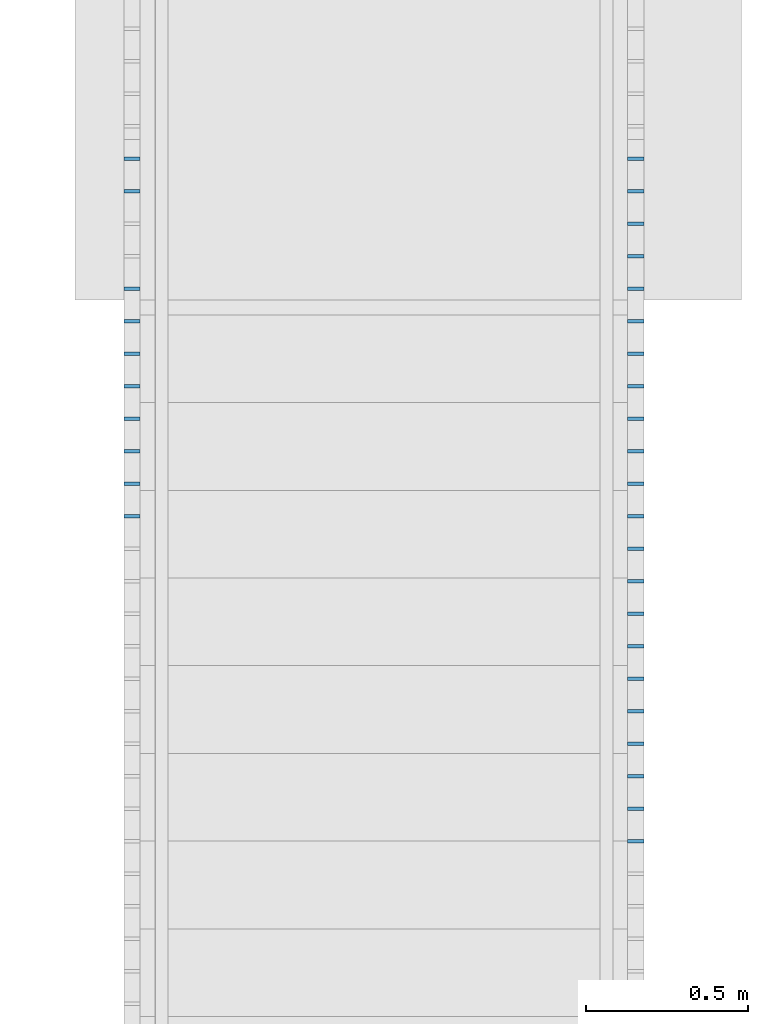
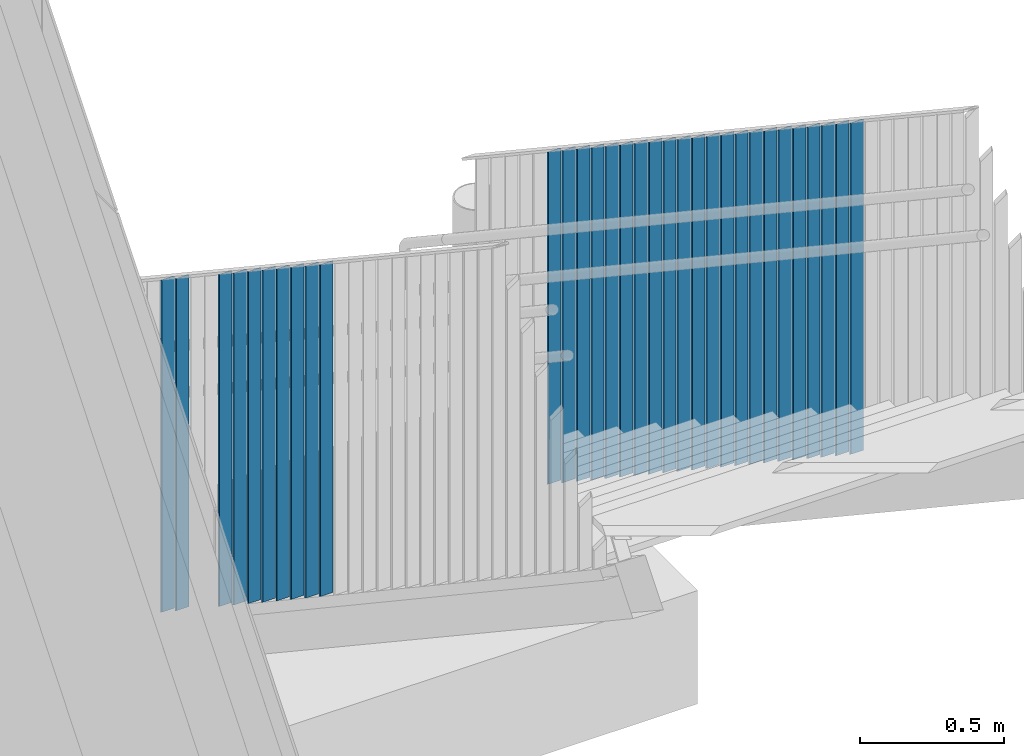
# One storey, part 80 of 418: 32 members, 2 elements without a shape of their own.
"""IFC2X3 building model written with IfcOpenShell, lengths in millimetres."""

from ifc_helpers import new_model, entity, si_unit, converted_unit, derived_unit, money_unit, direction, frame, origin_with_axes, place, context, subcontext, project, spatial, faceted_brep, material, type_object, element, aggregate, save


model = new_model("IFC2X3")

# Units and contexts
model_context = context("Model", 3, precision=0.01, world=origin_with_axes(), true_north=direction((0.0, 1.0)))
body_context = subcontext(model_context, "Body", "Model", "MODEL_VIEW")
ifc_project = project(units=[si_unit("LENGTHUNIT", "METRE", prefix="MILLI"), si_unit("AREAUNIT", "SQUARE_METRE"), si_unit("VOLUMEUNIT", "CUBIC_METRE"), converted_unit("PLANEANGLEUNIT", "DEGREE", entity("IfcPlaneAngleMeasure", 0.0174532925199), si_unit("PLANEANGLEUNIT", "RADIAN"), dimensions=[0, 0, 0, 0, 0, 0, 0]), si_unit("SOLIDANGLEUNIT", "STERADIAN"), money_unit("EUR"), converted_unit("TIMEUNIT", "Year", entity("IfcTimeMeasure", 31556926.0), si_unit("TIMEUNIT", "SECOND"), dimensions=[0, 0, 1, 0, 0, 0, 0]), si_unit("MASSUNIT", "GRAM", prefix="KILO"), si_unit("THERMODYNAMICTEMPERATUREUNIT", "DEGREE_CELSIUS"), si_unit("LUMINOUSINTENSITYUNIT", "LUMEN"), si_unit("ENERGYUNIT", "JOULE", prefix="MEGA"), derived_unit("THERMALCONDUCTANCEUNIT", [(si_unit("POWERUNIT", "WATT"), 1), (si_unit("LENGTHUNIT", "METRE"), -1), (si_unit("THERMODYNAMICTEMPERATUREUNIT", "KELVIN"), -1)]), derived_unit("SPECIFICHEATCAPACITYUNIT", [(si_unit("ENERGYUNIT", "JOULE"), 1), (si_unit("MASSUNIT", "GRAM", prefix="KILO"), -1), (si_unit("THERMODYNAMICTEMPERATUREUNIT", "KELVIN"), -1)]), derived_unit("MASSDENSITYUNIT", [(si_unit("MASSUNIT", "GRAM", prefix="KILO"), 1), (si_unit("VOLUMEUNIT", "CUBIC_METRE"), -1)])], contexts=[model_context])

# Site, building, storey
site_placement = place(None, origin_with_axes())
site = spatial("IfcSite", under=ifc_project, at=site_placement, Name="Paldiski mnt 245/1, Tallinn, Harjumaa", CompositionType="COMPLEX")
building_placement = place(site_placement, origin_with_axes())
building = spatial("IfcBuilding", under=site, at=building_placement, Name="RKAS Hoone üldnimetus (kasutust iseloomustav) -> IFC Project Manager -> SOLIBRI", CompositionType="ELEMENT")
storey_placement = place(building_placement, origin_with_axes())
storey = spatial("IfcBuildingStorey", under=building, at=storey_placement, Name="Esimene korrus", CompositionType="ELEMENT", Elevation=0.0)

# Railing, members
railing_type = type_object("IfcRailingType", Name="Railing Type", PredefinedType="NOTDEFINED")
railing_1_placement = place(storey_placement, frame((-15438.0000282, 781.88210964, -670.434782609), z_axis=(0.0, 0.0, 1.0), x_axis=(-0.773149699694, -0.634223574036, 0.0)))
railing_1 = element("IfcRailing", 1, at=railing_1_placement, inside=storey, type_object=railing_type, Name="Trepipiire", PredefinedType="NOTDEFINED")
ifc_material = material(Name="RAL7016")
member_type = type_object("IfcMemberType", Name="IfcMember", PredefinedType="POST")
member_1_placement = place(railing_1_placement, frame((-285.098573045, -386.967445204, 99.0338164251), z_axis=(0.0, 0.0, 1.0), x_axis=(-0.773149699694, 0.634223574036, 0.0)))
member_1 = element("IfcMember", 2, at=member_1_placement, type_object=member_type, material=ifc_material, Name="Balustraad - 001", ObjectType="POST", context=body_context, shape_type="Brep", body=[
    faceted_brep([(25.0, -5.0, 84.7342992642), (25.0, 5.0, 78.0676325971), (25.0, 5.0, 1486.6747182), (25.0, -5.0, 1493.3252818), (-24.9999848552, 5.0, 78.0676325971), (-24.9999848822, -5.0, 84.7342992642), (-25.0, 5.0, 1486.6747182), (-25.0, -5.0, 1493.3252818)], [[[0, 1, 2, 3]], [[4, 1, 0, 5]], [[1, 4, 6, 2]], [[6, 7, 3, 2]], [[5, 0, 3, 7]], [[4, 5, 7, 6]]]),
])
member_2_placement = place(railing_1_placement, frame((-221.676215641, -309.652475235, 165.539452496), z_axis=(0.0, 0.0, 1.0), x_axis=(-0.773149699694, 0.634223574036, 0.0)))
member_2 = element("IfcMember", 3, at=member_2_placement, type_object=member_type, material=ifc_material, Name="Balustraad - 001", ObjectType="POST", context=body_context, shape_type="Brep", body=[
    faceted_brep([(25.0, -5.0, 84.8953298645), (25.0, 5.0, 78.2286631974), (25.0, 5.0, 1486.6747182), (25.0, -5.0, 1493.3252818), (-24.9999851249, 5.0, 78.2286631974), (-24.9999851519, -5.0, 84.8953298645), (-25.0, 5.0, 1486.6747182), (-25.0, -5.0, 1493.3252818)], [[[0, 1, 2, 3]], [[4, 1, 0, 5]], [[1, 4, 6, 2]], [[6, 7, 3, 2]], [[5, 0, 3, 7]], [[4, 5, 7, 6]]]),
])
member_3_placement = place(railing_1_placement, frame((-31.4091434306, -77.7075653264, 365.056360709), z_axis=(0.0, 0.0, 1.0), x_axis=(-0.773149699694, 0.634223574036, 0.0)))
member_3 = element("IfcMember", 4, at=member_3_placement, type_object=member_type, material=ifc_material, Name="Balustraad - 001", ObjectType="POST", context=body_context, shape_type="Brep", body=[
    faceted_brep([(25.0, -5.0, 85.3784216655), (25.0, 5.0, 78.7117549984), (25.0, 5.0, 1486.6747182), (25.0, -5.0, 1493.3252818), (-24.9999859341, 5.0, 78.7117549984), (-24.999985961, -5.0, 85.3784216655), (-25.0, 5.0, 1486.6747182), (-25.0, -5.0, 1493.3252818)], [[[0, 1, 2, 3]], [[4, 1, 0, 5]], [[1, 4, 6, 2]], [[6, 7, 3, 2]], [[5, 0, 3, 7]], [[4, 5, 7, 6]]]),
])
member_4_placement = place(railing_1_placement, frame((32.0132139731, -0.392595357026, 431.561996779), z_axis=(0.0, 0.0, 1.0), x_axis=(-0.773149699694, 0.634223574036, 0.0)))
member_4 = element("IfcMember", 5, at=member_4_placement, type_object=member_type, material=ifc_material, Name="Balustraad - 001", ObjectType="POST", context=body_context, shape_type="Brep", body=[
    faceted_brep([(25.0, -5.0, 85.5394522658), (25.0, 5.0, 78.8727855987), (25.0, 5.0, 1486.6747182), (25.0, -5.0, 1493.3252818), (-24.9999862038, 5.0, 78.8727855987), (-24.9999862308, -5.0, 85.5394522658), (-25.0, 5.0, 1486.6747182), (-25.0, -5.0, 1493.3252818)], [[[0, 1, 2, 3]], [[4, 1, 0, 5]], [[1, 4, 6, 2]], [[6, 7, 3, 2]], [[5, 0, 3, 7]], [[4, 5, 7, 6]]]),
])
member_5_placement = place(railing_1_placement, frame((95.4355713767, 76.9223746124, 498.06763285), z_axis=(0.0, 0.0, 1.0), x_axis=(-0.773149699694, 0.634223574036, 0.0)))
member_5 = element("IfcMember", 6, at=member_5_placement, type_object=member_type, material=ifc_material, Name="Piirde Post - 001", ObjectType="POST", context=body_context, shape_type="Brep", body=[
    faceted_brep([(25.0, -5.0, 85.7004828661), (25.0, 5.0, 79.033816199), (25.0, 5.0, 1486.6747182), (25.0, -5.0, 1493.3252818), (-24.9999864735, 5.0, 79.033816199), (-24.9999865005, -5.0, 85.7004828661), (-25.0, 5.0, 1486.6747182), (-25.0, -5.0, 1493.3252818)], [[[0, 1, 2, 3]], [[4, 1, 0, 5]], [[1, 4, 6, 2]], [[6, 7, 3, 2]], [[5, 0, 3, 7]], [[4, 5, 7, 6]]]),
])
member_6_placement = place(railing_1_placement, frame((158.85792878, 154.237344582, 564.573268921), z_axis=(0.0, 0.0, 1.0), x_axis=(-0.773149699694, 0.634223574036, 0.0)))
member_6 = element("IfcMember", 7, at=member_6_placement, type_object=member_type, material=ifc_material, Name="Balustraad - 001", ObjectType="POST", context=body_context, shape_type="Brep", body=[
    faceted_brep([(25.0, -5.0, 85.8615134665), (25.0, 5.0, 79.1948467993), (25.0, 5.0, 1486.6747182), (25.0, -5.0, 1493.3252818), (-24.9999867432, 5.0, 79.1948467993), (-24.9999867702, -5.0, 85.8615134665), (-25.0, 5.0, 1486.6747182), (-25.0, -5.0, 1493.3252818)], [[[0, 1, 2, 3]], [[4, 1, 0, 5]], [[1, 4, 6, 2]], [[6, 7, 3, 2]], [[5, 0, 3, 7]], [[4, 5, 7, 6]]]),
])
member_7_placement = place(railing_1_placement, frame((222.280286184, 231.552314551, 631.078904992), z_axis=(0.0, 0.0, 1.0), x_axis=(-0.773149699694, 0.634223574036, 0.0)))
member_7 = element("IfcMember", 8, at=member_7_placement, type_object=member_type, material=ifc_material, Name="Balustraad - 001", ObjectType="POST", context=body_context, shape_type="Brep", body=[
    faceted_brep([(25.0, -5.0, 86.0225440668), (25.0, 5.0, 79.3558773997), (25.0, 5.0, 1486.6747182), (25.0, -5.0, 1493.3252818), (-24.999987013, 5.0, 79.3558773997), (-24.9999870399, -5.0, 86.0225440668), (-25.0, 5.0, 1486.6747182), (-25.0, -5.0, 1493.3252818)], [[[0, 1, 2, 3]], [[4, 1, 0, 5]], [[1, 4, 6, 2]], [[6, 7, 3, 2]], [[5, 0, 3, 7]], [[4, 5, 7, 6]]]),
])
member_8_placement = place(railing_1_placement, frame((285.702643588, 308.86728452, 697.584541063), z_axis=(0.0, 0.0, 1.0), x_axis=(-0.773149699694, 0.634223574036, 0.0)))
member_8 = element("IfcMember", 9, at=member_8_placement, type_object=member_type, material=ifc_material, Name="Balustraad - 001", ObjectType="POST", context=body_context, shape_type="Brep", body=[
    faceted_brep([(25.0, -5.0, 86.1835746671), (25.0, 5.0, 79.516908), (25.0, 5.0, 1486.6747182), (25.0, -5.0, 1493.3252818), (-24.9999872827, 5.0, 79.516908), (-24.9999873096, -5.0, 86.1835746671), (-25.0, 5.0, 1486.6747182), (-25.0, -5.0, 1493.3252818)], [[[0, 1, 2, 3]], [[4, 1, 0, 5]], [[1, 4, 6, 2]], [[6, 7, 3, 2]], [[5, 0, 3, 7]], [[4, 5, 7, 6]]]),
])
member_9_placement = place(railing_1_placement, frame((349.125000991, 386.18225449, 764.090177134), z_axis=(0.0, 0.0, 1.0), x_axis=(-0.773149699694, 0.634223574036, 0.0)))
member_9 = element("IfcMember", 10, at=member_9_placement, type_object=member_type, material=ifc_material, Name="Balustraad - 001", ObjectType="POST", context=body_context, shape_type="Brep", body=[
    faceted_brep([(25.0, -5.0, 86.3446052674), (25.0, 5.0, 79.6779386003), (25.0, 5.0, 1486.6747182), (25.0, -5.0, 1493.3252818), (-24.9999875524, 5.0, 79.6779386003), (-24.9999875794, -5.0, 86.3446052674), (-25.0, 5.0, 1486.6747182), (-25.0, -5.0, 1493.3252818)], [[[0, 1, 2, 3]], [[4, 1, 0, 5]], [[1, 4, 6, 2]], [[6, 7, 3, 2]], [[5, 0, 3, 7]], [[4, 5, 7, 6]]]),
])
member_10_placement = place(railing_1_placement, frame((412.547358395, 463.497224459, 830.595813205), z_axis=(0.0, 0.0, 1.0), x_axis=(-0.773149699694, 0.634223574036, 0.0)))
member_10 = element("IfcMember", 11, at=member_10_placement, type_object=member_type, material=ifc_material, Name="Balustraad - 001", ObjectType="POST", context=body_context, shape_type="Brep", body=[
    faceted_brep([(25.0, -5.0, 86.5056358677), (25.0, 5.0, 79.8389692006), (25.0, 5.0, 1486.6747182), (25.0, -5.0, 1493.3252818), (-24.9999878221, 5.0, 79.8389692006), (-24.9999878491, -5.0, 86.5056358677), (-25.0, 5.0, 1486.6747182), (-25.0, -5.0, 1493.3252818)], [[[0, 1, 2, 3]], [[4, 1, 0, 5]], [[1, 4, 6, 2]], [[6, 7, 3, 2]], [[5, 0, 3, 7]], [[4, 5, 7, 6]]]),
])
aggregate(railing_1, [member_1, member_2, member_3, member_4, member_5, member_6, member_7, member_8, member_9, member_10])

railing_2_placement = place(storey_placement, frame((-13938.0000282, 1623.82640275, -670.434782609), z_axis=(0.0, 0.0, 1.0), x_axis=(0.773149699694, 0.634223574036, 0.0)))
railing_2 = element("IfcRailing", 12, at=railing_2_placement, inside=storey, type_object=railing_type, Name="Trepipiire", PredefinedType="NOTDEFINED")
member_11_placement = place(railing_2_placement, frame((-210.224860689, -295.692710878, 99.0338164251), z_axis=(0.0, 0.0, 1.0), x_axis=(0.773149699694, -0.634223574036, 0.0)))
member_11 = element("IfcMember", 13, at=member_11_placement, type_object=member_type, material=ifc_material, Name="Balustraad - 001", ObjectType="POST", context=body_context, shape_type="Brep", body=[
    faceted_brep([(24.9999986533, -5.0, 84.7342992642), (24.9999986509, 5.0, 78.0676325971), (25.0, 5.0, 1486.6747182), (25.0, -5.0, 1493.3252818), (-25.0, 5.0, 78.0676325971), (-25.0, -5.0, 84.7342992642), (-25.0, 5.0, 1486.6747182), (-25.0, -5.0, 1493.3252818)], [[[0, 1, 2, 3]], [[4, 1, 0, 5]], [[1, 4, 6, 2]], [[6, 7, 3, 2]], [[5, 0, 3, 7]], [[4, 5, 7, 6]]]),
])
member_12_placement = place(railing_2_placement, frame((-273.647218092, -373.007680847, 165.539452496), z_axis=(0.0, 0.0, 1.0), x_axis=(0.773149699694, -0.634223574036, 0.0)))
member_12 = element("IfcMember", 14, at=member_12_placement, type_object=member_type, material=ifc_material, Name="Balustraad - 001", ObjectType="POST", context=body_context, shape_type="Brep", body=[
    faceted_brep([(24.9999986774, -5.0, 84.8953298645), (24.999998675, 5.0, 78.2286631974), (25.0, 5.0, 1486.6747182), (25.0, -5.0, 1493.3252818), (-25.0, 5.0, 78.2286631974), (-25.0, -5.0, 84.8953298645), (-25.0, 5.0, 1486.6747182), (-25.0, -5.0, 1493.3252818)], [[[0, 1, 2, 3]], [[4, 1, 0, 5]], [[1, 4, 6, 2]], [[6, 7, 3, 2]], [[5, 0, 3, 7]], [[4, 5, 7, 6]]]),
])
member_13_placement = place(railing_2_placement, frame((-337.069575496, -450.322650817, 232.045088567), z_axis=(0.0, 0.0, 1.0), x_axis=(0.773149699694, -0.634223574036, 0.0)))
member_13 = element("IfcMember", 15, at=member_13_placement, type_object=member_type, material=ifc_material, Name="Balustraad - 001", ObjectType="POST", context=body_context, shape_type="Brep", body=[
    faceted_brep([(24.9999987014, -5.0, 85.0563604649), (24.999998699, 5.0, 78.3896937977), (25.0, 5.0, 1486.6747182), (25.0, -5.0, 1493.3252818), (-25.0, 5.0, 78.3896937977), (-25.0, -5.0, 85.0563604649), (-25.0, 5.0, 1486.6747182), (-25.0, -5.0, 1493.3252818)], [[[0, 1, 2, 3]], [[4, 1, 0, 5]], [[1, 4, 6, 2]], [[6, 7, 3, 2]], [[5, 0, 3, 7]], [[4, 5, 7, 6]]]),
])
member_14_placement = place(railing_2_placement, frame((-400.4919329, -527.637620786, 298.550724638), z_axis=(0.0, 0.0, 1.0), x_axis=(0.773149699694, -0.634223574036, 0.0)))
member_14 = element("IfcMember", 16, at=member_14_placement, type_object=member_type, material=ifc_material, Name="Balustraad - 001", ObjectType="POST", context=body_context, shape_type="Brep", body=[
    faceted_brep([(24.9999987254, -5.0, 85.2173910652), (24.999998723, 5.0, 78.5507243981), (25.0, 5.0, 1486.6747182), (25.0, -5.0, 1493.3252818), (-25.0, 5.0, 78.5507243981), (-25.0, -5.0, 85.2173910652), (-25.0, 5.0, 1486.6747182), (-25.0, -5.0, 1493.3252818)], [[[0, 1, 2, 3]], [[4, 1, 0, 5]], [[1, 4, 6, 2]], [[6, 7, 3, 2]], [[5, 0, 3, 7]], [[4, 5, 7, 6]]]),
])
member_15_placement = place(railing_2_placement, frame((-463.914290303, -604.952590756, 365.056360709), z_axis=(0.0, 0.0, 1.0), x_axis=(0.773149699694, -0.634223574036, 0.0)))
member_15 = element("IfcMember", 17, at=member_15_placement, type_object=member_type, material=ifc_material, Name="Balustraad - 001", ObjectType="POST", context=body_context, shape_type="Brep", body=[
    faceted_brep([(24.9999987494, -5.0, 85.3784216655), (24.999998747, 5.0, 78.7117549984), (25.0, 5.0, 1486.6747182), (25.0, -5.0, 1493.3252818), (-25.0, 5.0, 78.7117549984), (-25.0, -5.0, 85.3784216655), (-25.0, 5.0, 1486.6747182), (-25.0, -5.0, 1493.3252818)], [[[0, 1, 2, 3]], [[4, 1, 0, 5]], [[1, 4, 6, 2]], [[6, 7, 3, 2]], [[5, 0, 3, 7]], [[4, 5, 7, 6]]]),
])
member_16_placement = place(railing_2_placement, frame((-527.336647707, -682.267560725, 431.561996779), z_axis=(0.0, 0.0, 1.0), x_axis=(0.773149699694, -0.634223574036, 0.0)))
member_16 = element("IfcMember", 18, at=member_16_placement, type_object=member_type, material=ifc_material, Name="Balustraad - 001", ObjectType="POST", context=body_context, shape_type="Brep", body=[
    faceted_brep([(24.9999987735, -5.0, 85.5394522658), (24.9999987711, 5.0, 78.8727855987), (25.0, 5.0, 1486.6747182), (25.0, -5.0, 1493.3252818), (-25.0, 5.0, 78.8727855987), (-25.0, -5.0, 85.5394522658), (-25.0, 5.0, 1486.6747182), (-25.0, -5.0, 1493.3252818)], [[[0, 1, 2, 3]], [[4, 1, 0, 5]], [[1, 4, 6, 2]], [[6, 7, 3, 2]], [[5, 0, 3, 7]], [[4, 5, 7, 6]]]),
])
member_17_placement = place(railing_2_placement, frame((-590.75900511, -759.582530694, 498.06763285), z_axis=(0.0, 0.0, 1.0), x_axis=(0.773149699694, -0.634223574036, 0.0)))
member_17 = element("IfcMember", 19, at=member_17_placement, type_object=member_type, material=ifc_material, Name="Piirde Post - 001", ObjectType="POST", context=body_context, shape_type="Brep", body=[
    faceted_brep([(24.9999987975, -5.0, 85.7004828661), (24.9999987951, 5.0, 79.033816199), (25.0, 5.0, 1486.6747182), (25.0, -5.0, 1493.3252818), (-25.0, 5.0, 79.033816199), (-25.0, -5.0, 85.7004828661), (-25.0, 5.0, 1486.6747182), (-25.0, -5.0, 1493.3252818)], [[[0, 1, 2, 3]], [[4, 1, 0, 5]], [[1, 4, 6, 2]], [[6, 7, 3, 2]], [[5, 0, 3, 7]], [[4, 5, 7, 6]]]),
])
member_18_placement = place(railing_2_placement, frame((-654.181362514, -836.897500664, 564.573268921), z_axis=(0.0, 0.0, 1.0), x_axis=(0.773149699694, -0.634223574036, 0.0)))
member_18 = element("IfcMember", 20, at=member_18_placement, type_object=member_type, material=ifc_material, Name="Balustraad - 001", ObjectType="POST", context=body_context, shape_type="Brep", body=[
    faceted_brep([(24.9999988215, -5.0, 85.8615134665), (24.9999988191, 5.0, 79.1948467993), (25.0, 5.0, 1486.6747182), (25.0, -5.0, 1493.3252818), (-25.0, 5.0, 79.1948467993), (-25.0, -5.0, 85.8615134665), (-25.0, 5.0, 1486.6747182), (-25.0, -5.0, 1493.3252818)], [[[0, 1, 2, 3]], [[4, 1, 0, 5]], [[1, 4, 6, 2]], [[6, 7, 3, 2]], [[5, 0, 3, 7]], [[4, 5, 7, 6]]]),
])
member_19_placement = place(railing_2_placement, frame((-717.603719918, -914.212470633, 631.078904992), z_axis=(0.0, 0.0, 1.0), x_axis=(0.773149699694, -0.634223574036, 0.0)))
member_19 = element("IfcMember", 21, at=member_19_placement, type_object=member_type, material=ifc_material, Name="Balustraad - 001", ObjectType="POST", context=body_context, shape_type="Brep", body=[
    faceted_brep([(24.9999988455, -5.0, 86.0225440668), (24.9999988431, 5.0, 79.3558773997), (25.0, 5.0, 1486.6747182), (25.0, -5.0, 1493.3252818), (-25.0, 5.0, 79.3558773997), (-25.0, -5.0, 86.0225440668), (-25.0, 5.0, 1486.6747182), (-25.0, -5.0, 1493.3252818)], [[[0, 1, 2, 3]], [[4, 1, 0, 5]], [[1, 4, 6, 2]], [[6, 7, 3, 2]], [[5, 0, 3, 7]], [[4, 5, 7, 6]]]),
])
member_20_placement = place(railing_2_placement, frame((-781.026077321, -991.527440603, 697.584541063), z_axis=(0.0, 0.0, 1.0), x_axis=(0.773149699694, -0.634223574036, 0.0)))
member_20 = element("IfcMember", 22, at=member_20_placement, type_object=member_type, material=ifc_material, Name="Balustraad - 001", ObjectType="POST", context=body_context, shape_type="Brep", body=[
    faceted_brep([(24.9999988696, -5.0, 86.1835746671), (24.9999988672, 5.0, 79.516908), (25.0, 5.0, 1486.6747182), (25.0, -5.0, 1493.3252818), (-25.0, 5.0, 79.516908), (-25.0, -5.0, 86.1835746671), (-25.0, 5.0, 1486.6747182), (-25.0, -5.0, 1493.3252818)], [[[0, 1, 2, 3]], [[4, 1, 0, 5]], [[1, 4, 6, 2]], [[6, 7, 3, 2]], [[5, 0, 3, 7]], [[4, 5, 7, 6]]]),
])
member_21_placement = place(railing_2_placement, frame((-844.448434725, -1068.84241057, 764.090177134), z_axis=(0.0, 0.0, 1.0), x_axis=(0.773149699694, -0.634223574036, 0.0)))
member_21 = element("IfcMember", 23, at=member_21_placement, type_object=member_type, material=ifc_material, Name="Balustraad - 001", ObjectType="POST", context=body_context, shape_type="Brep", body=[
    faceted_brep([(24.9999988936, -5.0, 86.3446052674), (24.9999988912, 5.0, 79.6779386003), (25.0, 5.0, 1486.6747182), (25.0, -5.0, 1493.3252818), (-25.0, 5.0, 79.6779386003), (-25.0, -5.0, 86.3446052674), (-25.0, 5.0, 1486.6747182), (-25.0, -5.0, 1493.3252818)], [[[0, 1, 2, 3]], [[4, 1, 0, 5]], [[1, 4, 6, 2]], [[6, 7, 3, 2]], [[5, 0, 3, 7]], [[4, 5, 7, 6]]]),
])
member_22_placement = place(railing_2_placement, frame((-907.870792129, -1146.15738054, 830.595813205), z_axis=(0.0, 0.0, 1.0), x_axis=(0.773149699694, -0.634223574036, 0.0)))
member_22 = element("IfcMember", 24, at=member_22_placement, type_object=member_type, material=ifc_material, Name="Balustraad - 001", ObjectType="POST", context=body_context, shape_type="Brep", body=[
    faceted_brep([(24.9999989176, -5.0, 86.5056358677), (24.9999989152, 5.0, 79.8389692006), (25.0, 5.0, 1486.6747182), (25.0, -5.0, 1493.3252818), (-25.0, 5.0, 79.8389692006), (-25.0, -5.0, 86.5056358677), (-25.0, 5.0, 1486.6747182), (-25.0, -5.0, 1493.3252818)], [[[0, 1, 2, 3]], [[4, 1, 0, 5]], [[1, 4, 6, 2]], [[6, 7, 3, 2]], [[5, 0, 3, 7]], [[4, 5, 7, 6]]]),
])
member_23_placement = place(railing_2_placement, frame((-971.293149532, -1223.47235051, 897.101449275), z_axis=(0.0, 0.0, 1.0), x_axis=(0.773149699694, -0.634223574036, 0.0)))
member_23 = element("IfcMember", 25, at=member_23_placement, type_object=member_type, material=ifc_material, Name="Balustraad - 001", ObjectType="POST", context=body_context, shape_type="Brep", body=[
    faceted_brep([(24.9999989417, -5.0, 86.6666664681), (24.9999989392, 5.0, 79.999999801), (25.0, 5.0, 1486.6747182), (25.0, -5.0, 1493.3252818), (-25.0, 5.0, 79.9999998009), (-25.0, -5.0, 86.6666664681), (-25.0, 5.0, 1486.6747182), (-25.0, -5.0, 1493.3252818)], [[[0, 1, 2, 3]], [[4, 1, 0, 5]], [[1, 4, 6, 2]], [[6, 7, 3, 2]], [[5, 0, 3, 7]], [[4, 5, 7, 6]]]),
])
member_24_placement = place(railing_2_placement, frame((-1034.71550694, -1300.78732048, 963.607085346), z_axis=(0.0, 0.0, 1.0), x_axis=(0.773149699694, -0.634223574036, 0.0)))
member_24 = element("IfcMember", 26, at=member_24_placement, type_object=member_type, material=ifc_material, Name="Balustraad - 001", ObjectType="POST", context=body_context, shape_type="Brep", body=[
    faceted_brep([(24.9999989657, -5.0, 86.8276970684), (24.9999989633, 5.0, 80.1610304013), (25.0, 5.0, 1486.6747182), (25.0, -5.0, 1493.3252818), (-25.0, 5.0, 80.1610304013), (-25.0, -5.0, 86.8276970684), (-25.0, 5.0, 1486.6747182), (-25.0, -5.0, 1493.3252818)], [[[0, 1, 2, 3]], [[4, 1, 0, 5]], [[1, 4, 6, 2]], [[6, 7, 3, 2]], [[5, 0, 3, 7]], [[4, 5, 7, 6]]]),
])
member_25_placement = place(railing_2_placement, frame((-1098.13786434, -1378.10229045, 1030.11272142), z_axis=(0.0, 0.0, 1.0), x_axis=(0.773149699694, -0.634223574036, 0.0)))
member_25 = element("IfcMember", 27, at=member_25_placement, type_object=member_type, material=ifc_material, Name="Balustraad - 001", ObjectType="POST", context=body_context, shape_type="Brep", body=[
    faceted_brep([(24.9999989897, -5.0, 86.9887276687), (24.9999989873, 5.0, 80.3220610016), (25.0, 5.0, 1486.6747182), (25.0, -5.0, 1493.3252818), (-25.0, 5.0, 80.3220610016), (-25.0, -5.0, 86.9887276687), (-25.0, 5.0, 1486.6747182), (-25.0, -5.0, 1493.3252818)], [[[0, 1, 2, 3]], [[4, 1, 0, 5]], [[1, 4, 6, 2]], [[6, 7, 3, 2]], [[5, 0, 3, 7]], [[4, 5, 7, 6]]]),
])
member_26_placement = place(railing_2_placement, frame((-1161.56022174, -1455.41726042, 1096.61835749), z_axis=(0.0, 0.0, 1.0), x_axis=(0.773149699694, -0.634223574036, 0.0)))
member_26 = element("IfcMember", 28, at=member_26_placement, type_object=member_type, material=ifc_material, Name="Balustraad - 001", ObjectType="POST", context=body_context, shape_type="Brep", body=[
    faceted_brep([(24.9999990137, -5.0, 87.149758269), (24.9999990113, 5.0, 80.4830916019), (25.0, 5.0, 1486.6747182), (25.0, -5.0, 1493.3252818), (-25.0, 5.0, 80.4830916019), (-25.0, -5.0, 87.149758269), (-25.0, 5.0, 1486.6747182), (-25.0, -5.0, 1493.3252818)], [[[0, 1, 2, 3]], [[4, 1, 0, 5]], [[1, 4, 6, 2]], [[6, 7, 3, 2]], [[5, 0, 3, 7]], [[4, 5, 7, 6]]]),
])
member_27_placement = place(railing_2_placement, frame((-1224.98257915, -1532.73223039, 1163.12399356), z_axis=(0.0, 0.0, 1.0), x_axis=(0.773149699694, -0.634223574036, 0.0)))
member_27 = element("IfcMember", 29, at=member_27_placement, type_object=member_type, material=ifc_material, Name="Balustraad - 001", ObjectType="POST", context=body_context, shape_type="Brep", body=[
    faceted_brep([(24.9999990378, -5.0, 87.3107888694), (24.9999990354, 5.0, 80.6441222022), (25.0, 5.0, 1486.6747182), (25.0, -5.0, 1493.3252818), (-25.0, 5.0, 80.6441222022), (-25.0, -5.0, 87.3107888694), (-25.0, 5.0, 1486.6747182), (-25.0, -5.0, 1493.3252818)], [[[0, 1, 2, 3]], [[4, 1, 0, 5]], [[1, 4, 6, 2]], [[6, 7, 3, 2]], [[5, 0, 3, 7]], [[4, 5, 7, 6]]]),
])
member_28_placement = place(railing_2_placement, frame((-1288.40493655, -1610.04720036, 1229.62962963), z_axis=(0.0, 0.0, 1.0), x_axis=(0.773149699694, -0.634223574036, 0.0)))
member_28 = element("IfcMember", 30, at=member_28_placement, type_object=member_type, material=ifc_material, Name="Balustraad - 001", ObjectType="POST", context=body_context, shape_type="Brep", body=[
    faceted_brep([(24.9999990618, -5.0, 87.4718194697), (24.9999990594, 5.0, 80.8051528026), (25.0, 5.0, 1486.6747182), (25.0, -5.0, 1493.3252818), (-25.0, 5.0, 80.8051528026), (-25.0, -5.0, 87.4718194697), (-25.0, 5.0, 1486.6747182), (-25.0, -5.0, 1493.3252818)], [[[0, 1, 2, 3]], [[4, 1, 0, 5]], [[1, 4, 6, 2]], [[6, 7, 3, 2]], [[5, 0, 3, 7]], [[4, 5, 7, 6]]]),
])
member_29_placement = place(railing_2_placement, frame((-1351.82729395, -1687.36217033, 1296.1352657), z_axis=(0.0, 0.0, 1.0), x_axis=(0.773149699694, -0.634223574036, 0.0)))
member_29 = element("IfcMember", 31, at=member_29_placement, type_object=member_type, material=ifc_material, Name="Piirde Post - 001", ObjectType="POST", context=body_context, shape_type="Brep", body=[
    faceted_brep([(24.9999990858, -5.0, 87.63285007), (24.9999990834, 5.0, 80.9661834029), (25.0, 5.0, 1486.6747182), (25.0, -5.0, 1493.3252818), (-25.0, 5.0, 80.9661834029), (-25.0, -5.0, 87.63285007), (-25.0, 5.0, 1486.6747182), (-25.0, -5.0, 1493.3252818)], [[[0, 1, 2, 3]], [[4, 1, 0, 5]], [[1, 4, 6, 2]], [[6, 7, 3, 2]], [[5, 0, 3, 7]], [[4, 5, 7, 6]]]),
])
member_30_placement = place(railing_2_placement, frame((-1415.24965136, -1764.6771403, 1362.64090177), z_axis=(0.0, 0.0, 1.0), x_axis=(0.773149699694, -0.634223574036, 0.0)))
member_30 = element("IfcMember", 32, at=member_30_placement, type_object=member_type, material=ifc_material, Name="Balustraad - 001", ObjectType="POST", context=body_context, shape_type="Brep", body=[
    faceted_brep([(24.9999991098, -5.0, 87.7938806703), (24.9999991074, 5.0, 81.1272140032), (25.0, 5.0, 1486.6747182), (25.0, -5.0, 1493.3252818), (-25.0, 5.0, 81.1272140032), (-25.0, -5.0, 87.7938806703), (-25.0, 5.0, 1486.6747182), (-25.0, -5.0, 1493.3252818)], [[[0, 1, 2, 3]], [[4, 1, 0, 5]], [[1, 4, 6, 2]], [[6, 7, 3, 2]], [[5, 0, 3, 7]], [[4, 5, 7, 6]]]),
])
member_31_placement = place(railing_2_placement, frame((-1478.67200876, -1841.99211027, 1429.14653784), z_axis=(0.0, 0.0, 1.0), x_axis=(0.773149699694, -0.634223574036, 0.0)))
member_31 = element("IfcMember", 33, at=member_31_placement, type_object=member_type, material=ifc_material, Name="Balustraad - 001", ObjectType="POST", context=body_context, shape_type="Brep", body=[
    faceted_brep([(24.9999991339, -5.0, 87.9549112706), (24.9999991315, 5.0, 81.2882446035), (25.0, 5.0, 1486.6747182), (25.0, -5.0, 1493.3252818), (-25.0, 5.0, 81.2882446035), (-25.0, -5.0, 87.9549112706), (-25.0, 5.0, 1486.6747182), (-25.0, -5.0, 1493.3252818)], [[[0, 1, 2, 3]], [[4, 1, 0, 5]], [[1, 4, 6, 2]], [[6, 7, 3, 2]], [[5, 0, 3, 7]], [[4, 5, 7, 6]]]),
])
member_32_placement = place(railing_2_placement, frame((-1542.09436616, -1919.30708024, 1495.65217391), z_axis=(0.0, 0.0, 1.0), x_axis=(0.773149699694, -0.634223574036, 0.0)))
member_32 = element("IfcMember", 34, at=member_32_placement, type_object=member_type, material=ifc_material, Name="Balustraad - 001", ObjectType="POST", context=body_context, shape_type="Brep", body=[
    faceted_brep([(24.9999991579, -5.0, 88.115941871), (24.9999991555, 5.0, 81.4492752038), (25.0, 5.0, 1486.6747182), (25.0, -5.0, 1493.3252818), (-25.0, 5.0, 81.4492752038), (-25.0, -5.0, 88.115941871), (-25.0, 5.0, 1486.6747182), (-25.0, -5.0, 1493.3252818)], [[[0, 1, 2, 3]], [[4, 1, 0, 5]], [[1, 4, 6, 2]], [[6, 7, 3, 2]], [[5, 0, 3, 7]], [[4, 5, 7, 6]]]),
])
aggregate(railing_2, [member_11, member_12, member_13, member_14, member_15, member_16, member_17, member_18, member_19, member_20, member_21, member_22, member_23, member_24, member_25, member_26, member_27, member_28, member_29, member_30, member_31, member_32])

save(model, "model.ifc")
